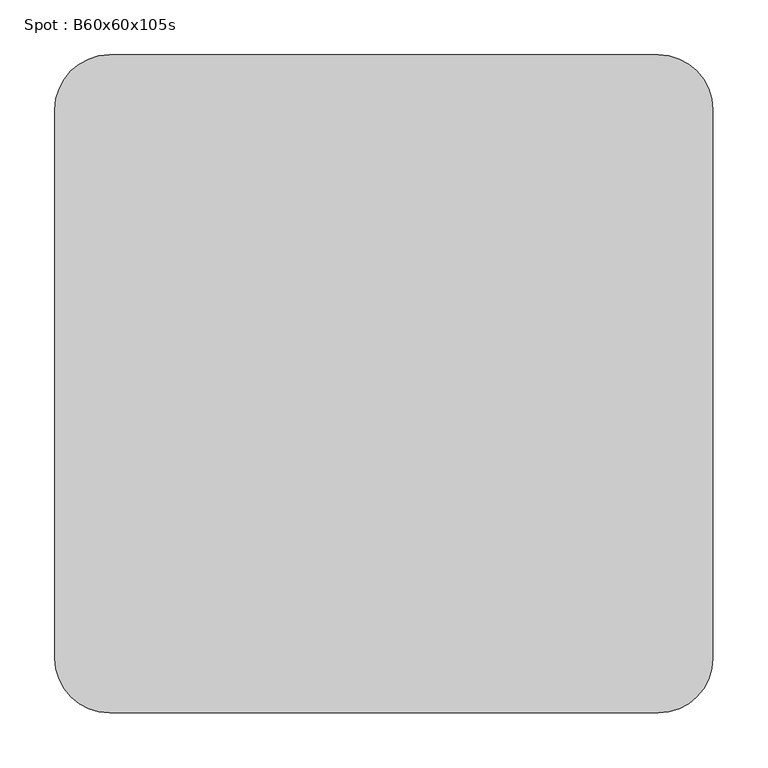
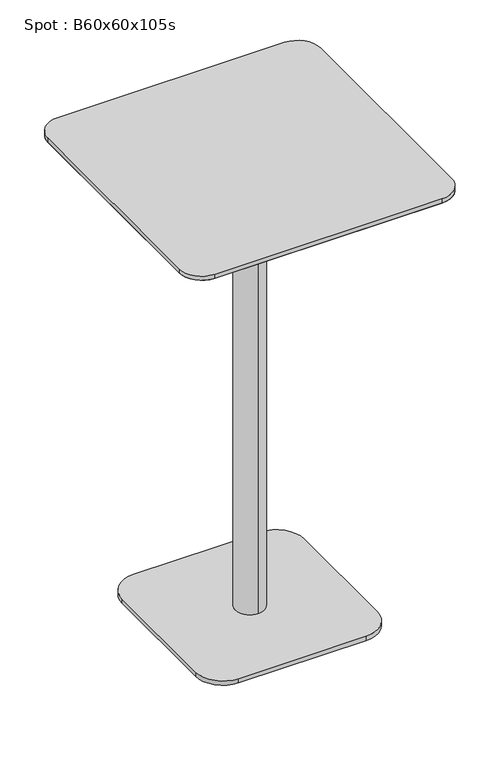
"""IFC4 building model written with IfcOpenShell, lengths in millimetres: furniture geometry, Spot : B60x60x105s."""

import ifcopenshell
import ifcopenshell.guid

model = None  # the IFC model being written
_history = None  # IfcOwnerHistory: only IFC2X3 demands one
_inside = {}  # id of a spatial element -> (the spatial element, [elements in it])
_under = {}  # id of a project, library or spatial element -> (it, [spatial elements below it])
_declared = {}  # id of a project -> (the project, [libraries it declares])
_typed = {}  # id of a type object -> (the type object, [elements of that type])
_made_of = {}  # id of a material, layer set ... -> (it, [elements and type objects made of it])


def new_model(schema):
    """Start an empty IFC model of exactly this schema.

    Asked for "IFC4X3", IfcOpenShell would pick the latest addendum, in which some entities
    have other attributes; the version numbers below select the first issue.
    IFC2X3 requires an IfcOwnerHistory on every rooted entity: one is made here for all.
    """
    global model, _history
    if schema == "IFC4X3":
        model = ifcopenshell.file(schema_version=(4, 3, 0, 0))
    else:
        model = ifcopenshell.file(schema=schema)
    _inside.clear()
    _under.clear()
    _declared.clear()
    _typed.clear()
    _made_of.clear()
    _history = None
    if model.schema == "IFC2X3":
        org = make("IfcOrganization", Name="unknown")
        user = make(
            "IfcPersonAndOrganization",
            ThePerson=make("IfcPerson", FamilyName="unknown"),
            TheOrganization=org,
        )
        app = make(
            "IfcApplication",
            ApplicationDeveloper=org,
            Version="unknown",
            ApplicationFullName="unknown",
            ApplicationIdentifier="unknown",
        )
        _history = make(
            "IfcOwnerHistory",
            OwningUser=user,
            OwningApplication=app,
            ChangeAction="ADDED",
            CreationDate=0,
        )
    return model


def make(cls, **values):
    """One entity of the class cls with the attributes given. An attribute that is None is left unset."""
    return model.create_entity(
        cls, **{name: value for name, value in values.items() if value is not None}
    )


def rooted(cls, **values):
    """An entity with a GlobalId (a new one), such as an element, a storey or a relation."""
    return make(cls, GlobalId=ifcopenshell.guid.new(), OwnerHistory=_history, **values)


def si_unit(unit_type, name, prefix=None):
    """IfcSIUnit, for example si_unit("LENGTHUNIT", "METRE", prefix="MILLI")."""
    return make("IfcSIUnit", UnitType=unit_type, Prefix=prefix, Name=name)


def assignment(units):
    """IfcUnitAssignment: the units of a project."""
    return None if units is None else make("IfcUnitAssignment", Units=units)


def point(xyz):
    """IfcCartesianPoint."""
    return None if xyz is None else make("IfcCartesianPoint", Coordinates=xyz)


def direction(xyz):
    """IfcDirection."""
    return None if xyz is None else make("IfcDirection", DirectionRatios=xyz)


def frame(location, z_axis=None, x_axis=None):
    """IfcAxis2Placement3D, a coordinate frame: its origin and axes. An axis left out is left unset."""
    return make(
        "IfcAxis2Placement3D",
        Location=point(location),
        Axis=direction(z_axis),
        RefDirection=direction(x_axis),
    )


def frame_2d(location, x_axis=None):
    """IfcAxis2Placement2D, a coordinate frame in the plane: its origin and x axis."""
    return make(
        "IfcAxis2Placement2D", Location=point(location), RefDirection=direction(x_axis)
    )


def origin():
    """The frame at (0, 0, 0) with its axes left unset."""
    return frame((0.0, 0.0, 0.0))


def origin_with_axes():
    """The frame at (0, 0, 0) with the z axis (0, 0, 1) and the x axis (1, 0, 0) written out."""
    return frame((0.0, 0.0, 0.0), z_axis=(0.0, 0.0, 1.0), x_axis=(1.0, 0.0, 0.0))


def place(relative_to, where):
    """IfcLocalPlacement: puts the frame where relative to a parent placement (None: the world)."""
    return make(
        "IfcLocalPlacement", PlacementRelTo=relative_to, RelativePlacement=where
    )


def context(
    kind, dimensions, precision=None, world=None, true_north=None, identifier=None
):
    """IfcGeometricRepresentationContext, for example the 3D "Model" context."""
    return make(
        "IfcGeometricRepresentationContext",
        ContextIdentifier=identifier,
        ContextType=kind,
        CoordinateSpaceDimension=dimensions,
        Precision=precision,
        WorldCoordinateSystem=world,
        TrueNorth=true_north,
    )


def project(units=None, contexts=None):
    """IfcProject with its units and contexts."""
    return rooted(
        "IfcProject",
        Name="project",
        RepresentationContexts=contexts,
        UnitsInContext=assignment(units),
    )


def spatial(cls, under=None, at=None, **own):
    """A site, building, storey or space (cls), placed at a placement, below another one or the project."""
    s = rooted(cls, ObjectPlacement=at, **own)
    if under is not None:
        _under.setdefault(under.id(), (under, []))[1].append(s)
    return s


def polyline(points):
    """IfcPolyline through the points."""
    return make("IfcPolyline", Points=[point(p) for p in points])


def circle_curve(where, radius):
    """IfcCircle in the frame where."""
    return make("IfcCircle", Position=where, Radius=radius)


def trimmed(basis, trim1, trim2, sense, master):
    """IfcTrimmedCurve: the piece of a basis curve between two trims."""
    return make(
        "IfcTrimmedCurve",
        BasisCurve=basis,
        Trim1=trim1,
        Trim2=trim2,
        SenseAgreement=sense,
        MasterRepresentation=master,
    )


def segment(curve, same_sense, transition):
    """IfcCompositeCurveSegment."""
    return make(
        "IfcCompositeCurveSegment",
        Transition=transition,
        SameSense=same_sense,
        ParentCurve=curve,
    )


def composite_curve(segments, self_intersect=None):
    """IfcCompositeCurve: segments joined end to end."""
    return make("IfcCompositeCurve", Segments=segments, SelfIntersect=self_intersect)


def outline(outer, holes=None, kind="AREA"):
    """IfcArbitraryClosedProfileDef: a profile drawn as a closed curve; with holes, ...WithVoids."""
    if holes is None:
        return make("IfcArbitraryClosedProfileDef", ProfileType=kind, OuterCurve=outer)
    return make(
        "IfcArbitraryProfileDefWithVoids",
        ProfileType=kind,
        OuterCurve=outer,
        InnerCurves=holes,
    )


def extrude(swept, where, along, depth):
    """IfcExtrudedAreaSolid: the profile swept, set in the frame where, extruded along a direction by depth."""
    return make(
        "IfcExtrudedAreaSolid",
        SweptArea=swept,
        Position=where,
        ExtrudedDirection=direction(along),
        Depth=depth,
    )


def shape(context_of_items, identifier, shape_type, items):
    """IfcShapeRepresentation: the items that make up one representation, for example the "Body"."""
    return make(
        "IfcShapeRepresentation",
        ContextOfItems=context_of_items,
        RepresentationIdentifier=identifier,
        RepresentationType=shape_type,
        Items=items,
    )


def source(mapping_origin, context_of_items, identifier, shape_type, items):
    """IfcRepresentationMap: a shape defined once, which mapped items show again and again."""
    return make(
        "IfcRepresentationMap",
        MappingOrigin=mapping_origin,
        MappedRepresentation=shape(context_of_items, identifier, shape_type, items),
    )


def transform(
    local_origin,
    x_axis=None,
    y_axis=None,
    z_axis=None,
    scale=None,
    scale2=None,
    scale3=None,
    uniform=True,
):
    """IfcCartesianTransformationOperator3D, or its non-uniform kind. x_axis, y_axis, z_axis: its Axis1, 2, 3."""
    if uniform:
        return make(
            "IfcCartesianTransformationOperator3D",
            Axis1=direction(x_axis),
            Axis2=direction(y_axis),
            LocalOrigin=point(local_origin),
            Scale=scale,
            Axis3=direction(z_axis),
        )
    return make(
        "IfcCartesianTransformationOperator3DnonUniform",
        Axis1=direction(x_axis),
        Axis2=direction(y_axis),
        LocalOrigin=point(local_origin),
        Scale=scale,
        Axis3=direction(z_axis),
        Scale2=scale2,
        Scale3=scale3,
    )


def mapped(mapping_source, mapping_target):
    """IfcMappedItem: shows the shape of a source again, moved by a transform."""
    return make(
        "IfcMappedItem", MappingSource=mapping_source, MappingTarget=mapping_target
    )


def made_of(thing, what):
    """Note that an element or type object is made of a material, layer set ...; save() writes the relation."""
    if what is not None:
        _made_of.setdefault(what.id(), (what, []))[1].append(thing)
    return thing


def element(
    cls,
    number,
    at=None,
    inside=None,
    cuts=None,
    type_object=None,
    material=None,
    context=None,
    identifier="Body",
    shape_type=None,
    held_by="IfcProductDefinitionShape",
    body=None,
    shapes=None,
    **own,
):
    """One element of the class cls, such as IfcWall. Its Tag is "e" and its number.

    at: its placement. inside: the storey or other place that contains it. cuts: it is an
    opening in that element (IfcRelVoidsElement). A single representation is given by context,
    identifier, shape_type and body (its items); several are given by shapes. held_by: the class
    of the entity that holds the representations. save() writes the other relations.
    """
    e = rooted(cls, Tag="e%d" % number, ObjectPlacement=at, **own)
    if body is not None:
        shapes = [shape(context, identifier, shape_type, body)]
    if shapes is not None:
        e.Representation = make(held_by, Representations=shapes)
    if inside is not None:
        _inside.setdefault(inside.id(), (inside, []))[1].append(e)
    if cuts is not None:
        rooted(
            "IfcRelVoidsElement", RelatingBuildingElement=cuts, RelatedOpeningElement=e
        )
    if type_object is not None:
        _typed.setdefault(type_object.id(), (type_object, []))[1].append(e)
    return made_of(e, material)


def aggregate(whole, parts):
    """IfcRelAggregates: a whole, such as a stair, and the parts it consists of."""
    return rooted("IfcRelAggregates", RelatingObject=whole, RelatedObjects=parts)


def save(model, path):
    """Write the relations noted so far, then the file.

    IfcRelAggregates (storeys below a building ...), IfcRelContainedInSpatialStructure (elements
    in a storey), IfcRelDefinesByType, IfcRelAssociatesMaterial and IfcRelDeclares: one each for
    every whole, place, type object, material and project.
    """
    for whole, parts in _under.values():
        aggregate(whole, parts)
    for where, things in _inside.values():
        rooted(
            "IfcRelContainedInSpatialStructure",
            RelatedElements=things,
            RelatingStructure=where,
        )
    for kind, things in _typed.values():
        rooted("IfcRelDefinesByType", RelatedObjects=things, RelatingType=kind)
    for what, things in _made_of.values():
        rooted("IfcRelAssociatesMaterial", RelatedObjects=things, RelatingMaterial=what)
    for by, libraries in _declared.values():
        rooted("IfcRelDeclares", RelatingContext=by, RelatedDefinitions=libraries)
    model.write(path)


def plane_surface(at):
    """IfcPlane: the flat surface through the origin of the frame at, square to its z axis."""
    return make("IfcPlane", Position=at)


def cylinder_surface(at, radius):
    """IfcCylindricalSurface: all points at the distance radius from the z axis of the frame at."""
    return make("IfcCylindricalSurface", Position=at, Radius=radius)


def revolved_surface(curve, axis_point, axis_direction):
    """IfcSurfaceOfRevolution: the curve turned about the line through axis_point along axis_direction."""
    return make(
        "IfcSurfaceOfRevolution",
        SweptCurve=make("IfcArbitraryOpenProfileDef", ProfileType="CURVE", Curve=curve),
        AxisPosition=make("IfcAxis1Placement", Location=point(axis_point), Axis=direction(axis_direction)),
    )


def advanced_brep(points, edges, surfaces, faces):
    """IfcAdvancedBrep: a solid bounded by faces that lie on surfaces and meet in shared edges.

    An edge is (start, end): straight between two places in points (the first is 0);
    or (start, end, curve); or (start, end, curve, False) where it runs against its curve.
    A face is (place in surfaces, loops), or (place, loops, False) where it looks against
    its surface's normal. A loop lists edges by number (the first is 1), with a minus sign
    where the edge is run from its end to its start. The first loop is the outer one.
    """
    corners = [point(p) for p in points]
    vertices = [make("IfcVertexPoint", VertexGeometry=c) for c in corners]
    made = []
    for start, end, *more in edges:
        made.append(
            make(
                "IfcEdgeCurve",
                EdgeStart=vertices[start],
                EdgeEnd=vertices[end],
                EdgeGeometry=more[0] if more else make("IfcPolyline", Points=[corners[start], corners[end]]),
                SameSense=more[1] if len(more) > 1 else True,
            )
        )
    hull = []
    for where, loops, *sense in faces:
        bounds = []
        for j, loop in enumerate(loops):
            ring = [make("IfcOrientedEdge", EdgeElement=made[abs(k) - 1], Orientation=k > 0) for k in loop]
            bounds.append(
                make(
                    "IfcFaceOuterBound" if j == 0 else "IfcFaceBound",
                    Bound=make("IfcEdgeLoop", EdgeList=ring),
                    Orientation=True,
                )
            )
        hull.append(make("IfcAdvancedFace", Bounds=bounds, FaceSurface=surfaces[where], SameSense=sense[0] if sense else True))
    return make("IfcAdvancedBrep", Outer=make("IfcClosedShell", CfsFaces=hull))


def spot_b60x60x105s_55f89e0a(model_context):
    return source(origin(), model_context, "Body", "SolidModel", [
        advanced_brep(
        [(-250.0, -250.0, 1028.0), (-250.0, 250.0, 1028.0), (250.0, 250.0, 1028.0), (250.0, -250.0, 1028.0), (-300.0, -250.0, 1040.0), (-250.0, -300.0, 1040.0), (250.0, -300.0, 1040.0), (300.0, -250.0, 1040.0), (300.0, 250.0, 1040.0), (250.0, 300.0, 1040.0), (-250.0, 300.0, 1040.0), (-300.0, 250.0, 1040.0)],
        [
            (0, 1),
            (1, 2),
            (2, 3),
            (3, 0),
            (4, 5, circle_curve(frame((-250.0, -250.0, 1040.0), z_axis=(0.0, 0.0, 1.0), x_axis=(0.0, -1.0, 0.0)), 50.0)),
            (5, 6),
            (6, 7, circle_curve(frame((250.0, -250.0, 1040.0), z_axis=(0.0, 0.0, 1.0), x_axis=(1.0, 0.0, 0.0)), 50.0)),
            (7, 8),
            (8, 9, circle_curve(frame((250.0, 250.0, 1040.0), z_axis=(0.0, 0.0, 1.0), x_axis=(0.0, 1.0, 0.0)), 50.0)),
            (9, 10),
            (10, 11, circle_curve(frame((-250.0, 250.0, 1040.0), z_axis=(0.0, 0.0, 1.0), x_axis=(-1.0, 0.0, 0.0)), 50.0)),
            (11, 4),
            (4, 0),
            (0, 5),
            (3, 6),
            (3, 7),
            (2, 8),
            (2, 9),
            (1, 10),
            (1, 11),
        ],
        [
            plane_surface(frame((0.0, 0.0, 1028.0), z_axis=(0.0, 0.0, -1.0), x_axis=(-1.0, 0.0, 0.0))),
            plane_surface(frame((0.0, 0.0, 1040.0), z_axis=(0.0, 0.0, 1.0), x_axis=(-1.0, 0.0, 0.0))),
            revolved_surface(polyline([(-250.0, -250.0, 1028.0), (-250.0, -300.0, 1040.0)]), (-250.0, -250.0, 1028.0), (0.0, 0.0, 1.0)),
            plane_surface(frame((0.0, -300.0, 1040.0), z_axis=(0.0, -0.23337295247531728, -0.9723873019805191), x_axis=(-1.0, 0.0, 0.0))),
            revolved_surface(polyline([(250.0, -250.0, 1028.0), (300.0, -250.0, 1040.0)]), (250.0, -250.0, 1028.0), (0.0, 0.0, 1.0)),
            plane_surface(frame((300.0, 0.0, 1040.0), z_axis=(0.23337295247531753, 0.0, -0.9723873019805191), x_axis=(0.0, -1.0, 0.0))),
            revolved_surface(polyline([(250.0, 250.0, 1028.0), (250.0, 300.0, 1040.0)]), (250.0, 250.0, 1028.0), (0.0, 0.0, 1.0)),
            plane_surface(frame((0.0, 300.0, 1040.0), z_axis=(0.0, 0.2333729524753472, -0.9723873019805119), x_axis=(1.0, 0.0, 0.0))),
            revolved_surface(polyline([(-250.0, 250.0, 1028.0), (-300.0, 250.0, 1040.0)]), (-250.0, 250.0, 1028.0), (0.0, 0.0, 1.0)),
            plane_surface(frame((-300.0, 0.0, 1040.0), z_axis=(-0.233372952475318, 0.0, -0.972387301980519), x_axis=(0.0, 1.0, 0.0))),
        ],
        [
            (0, [[1, 2, 3, 4]]),
            (1, [[5, 6, 7, 8, 9, 10, 11, 12]]),
            (2, [[-5, 13, 14]]),
            (3, [[-6, -14, -4, 15]]),
            (4, [[-7, -15, 16]]),
            (5, [[-8, -16, -3, 17]]),
            (6, [[-9, -17, 18]]),
            (7, [[-10, -18, -2, 19]]),
            (8, [[-11, -19, 20]]),
            (9, [[-12, -20, -1, -13]]),
        ],
    ),
        extrude(outline(composite_curve([segment(trimmed(circle_curve(frame_2d((250.0, 250.0)), 50.0), [point((250.0, 300.0))], [point((300.0, 250.0))], False, "CARTESIAN"), True, "CONTINUOUS"), segment(polyline([(300.0, 250.0), (300.0, -250.0)]), True, "CONTINUOUS"), segment(trimmed(circle_curve(frame_2d((250.0, -250.0)), 50.0), [point((300.0, -250.0))], [point((250.0, -300.0))], False, "CARTESIAN"), True, "CONTINUOUS"), segment(polyline([(250.0, -300.0), (-250.0, -300.0)]), True, "CONTINUOUS"), segment(trimmed(circle_curve(frame_2d((-250.0, -250.0)), 50.0), [point((-250.0, -300.0))], [point((-300.0, -250.0))], False, "CARTESIAN"), True, "CONTINUOUS"), segment(polyline([(-300.0, -250.0), (-300.0, 250.0)]), True, "CONTINUOUS"), segment(trimmed(circle_curve(frame_2d((-250.0, 250.0)), 50.0), [point((-300.0, 250.0))], [point((-250.0, 300.0))], False, "CARTESIAN"), True, "CONTINUOUS"), segment(polyline([(-250.0, 300.0), (250.0, 300.0)]), True, "CONTINUOUS")], self_intersect=False)), frame((0.0, 0.0, 1040.0), z_axis=(0.0, 0.0, 1.0), x_axis=(1.0, 0.0, 0.0)), (0.0, 0.0, 1.0), 10.0),
        extrude(outline(composite_curve([segment(trimmed(circle_curve(frame_2d((140.0, 140.0)), 60.0), [point((140.0, 200.0))], [point((200.0, 140.0))], False, "CARTESIAN"), True, "CONTINUOUS"), segment(polyline([(200.0, 140.0), (200.0, -140.0)]), True, "CONTINUOUS"), segment(trimmed(circle_curve(frame_2d((140.0, -140.0)), 60.0), [point((200.0, -140.0))], [point((140.0, -200.0))], False, "CARTESIAN"), True, "CONTINUOUS"), segment(polyline([(140.0, -200.0), (-140.0, -200.0)]), True, "CONTINUOUS"), segment(trimmed(circle_curve(frame_2d((-140.0, -140.0)), 60.0), [point((-140.0, -200.0))], [point((-200.0, -140.0))], False, "CARTESIAN"), True, "CONTINUOUS"), segment(polyline([(-200.0, -140.0), (-200.0, 140.0)]), True, "CONTINUOUS"), segment(trimmed(circle_curve(frame_2d((-140.0, 140.0)), 60.0), [point((-200.0, 140.0))], [point((-140.0, 200.0))], False, "CARTESIAN"), True, "CONTINUOUS"), segment(polyline([(-140.0, 200.0), (140.0, 200.0)]), True, "CONTINUOUS")], self_intersect=False)), origin_with_axes(), (0.0, 0.0, 1.0), 10.0),
        advanced_brep(
        [(0.0, 32.0, 10.0), (0.0, -32.0, 10.0), (0.0, -32.0, 997.406916), (0.0, 32.0, 997.406916), (0.0, 0.0, 10.0), (0.0, 150.0, 1028.0), (0.0, -150.0, 1028.0), (0.0, 0.0, 1028.0), (0.0, 150.0, 1016.7213673), (0.0, -150.0, 1016.7213673)],
        [
            (0, 1, circle_curve(frame((0.0, 0.0, 10.0), z_axis=(0.0, 0.0, 1.0), x_axis=(0.0, -1.0, 0.0)), 32.0)),
            (1, 2),
            (2, 3, circle_curve(frame((0.0, 0.0, 997.406916), z_axis=(0.0, 0.0, -1.0), x_axis=(0.0, -1.0, 0.0)), 32.0)),
            (3, 0),
            (1, 0, circle_curve(frame((0.0, 0.0, 10.0), z_axis=(0.0, 0.0, 1.0), x_axis=(0.0, -1.0, 0.0)), 32.0)),
            (3, 2, circle_curve(frame((0.0, 0.0, 997.406916), z_axis=(0.0, 0.0, -1.0), x_axis=(0.0, -1.0, 0.0)), 32.0)),
            (4, 1),
            (0, 4),
            (5, 6, circle_curve(frame((0.0, 0.0, 1028.0), z_axis=(0.0, 0.0, 1.0), x_axis=(0.0, -1.0, 0.0)), 150.0)),
            (6, 7),
            (7, 5),
            (6, 5, circle_curve(frame((0.0, 0.0, 1028.0), z_axis=(0.0, 0.0, 1.0), x_axis=(0.0, -1.0, 0.0)), 150.0)),
            (8, 9, circle_curve(frame((0.0, 0.0, 1016.7213673), z_axis=(0.0, 0.0, 1.0), x_axis=(0.0, -1.0, 0.0)), 150.0)),
            (9, 6),
            (5, 8),
            (9, 8, circle_curve(frame((0.0, 0.0, 1016.7213673), z_axis=(0.0, 0.0, 1.0), x_axis=(0.0, -1.0, 0.0)), 150.0)),
            (2, 9),
            (8, 3),
        ],
        [
            cylinder_surface(frame((0.0, 0.0, 1390.0), z_axis=(0.0, 0.0, -1.0), x_axis=(0.0, -1.0, 0.0)), 32.0),
            plane_surface(frame((0.0, 0.0, 10.0), z_axis=(0.0, 0.0, -1.0), x_axis=(0.0, -1.0, 0.0))),
            plane_surface(frame((0.0, 0.0, 1028.0), z_axis=(0.0, 0.0, 1.0), x_axis=(0.0, -1.0, 0.0))),
            cylinder_surface(frame((0.0, 0.0, 1390.0), z_axis=(0.0, 0.0, -1.0), x_axis=(0.0, -1.0, 0.0)), 150.0),
            revolved_surface(polyline([(0.0, -150.0, 1016.7213673), (0.0, -32.0, 997.406916)]), (0.0, 0.0, 1390.0), (0.0, 0.0, -1.0)),
        ],
        [
            (0, [[1, 2, 3, 4]]),
            (0, [[5, -4, 6, -2]]),
            (1, [[7, -1, 8]]),
            (1, [[-8, -5, -7]]),
            (2, [[9, 10, 11]]),
            (2, [[12, -11, -10]]),
            (3, [[13, 14, -9, 15]]),
            (3, [[16, -15, -12, -14]]),
            (4, [[-3, 17, -13, 18]]),
            (4, [[-6, -18, -16, -17]]),
        ],
    ),
        extrude(outline(polyline([(0.0, 0.0), (-20.0, 0.0), (-20.0, 20.0), (0.0, 20.0), (0.0, 0.0)])), origin_with_axes(), (0.0, 0.0, 1.0), 10.0),
    ])


if __name__ == "__main__":
    model = new_model("IFC4")
    model_context = context("Model", 3, world=origin())
    ifc_project = project(units=[si_unit("LENGTHUNIT", "METRE", prefix="MILLI")], contexts=[model_context])
    site = spatial("IfcSite", under=ifc_project)
    building = spatial("IfcBuilding", under=site)
    placement = place(None, origin())
    spot_b60x60x105s_shape = spot_b60x60x105s_55f89e0a(model_context)
    element("IfcFurniture", 1, ObjectType="Spot : B60x60x105s", at=placement, inside=building, context=model_context, shape_type="MappedRepresentation", body=[
        mapped(spot_b60x60x105s_shape, transform((0.0, 0.0, 0.0), x_axis=(1.0, 0.0, 0.0), y_axis=(0.0, 1.0, 0.0), z_axis=(0.0, 0.0, 1.0))),
    ])
    save(model, "model.ifc")
